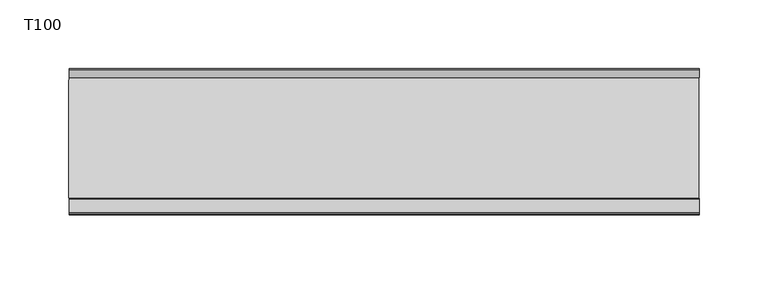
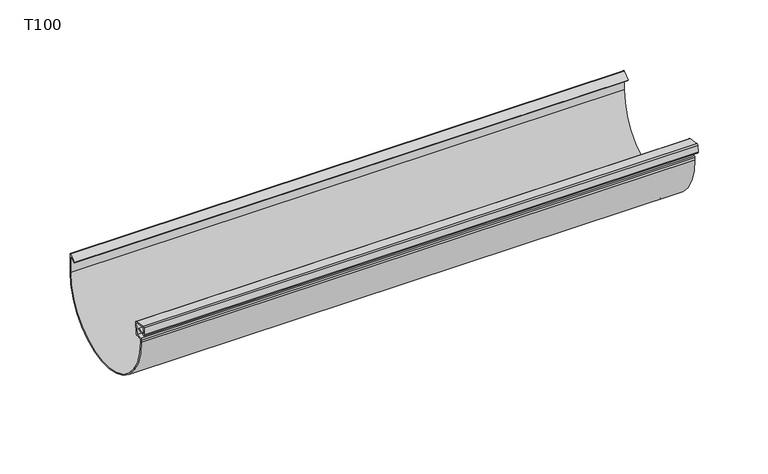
"""IFC4 building model written with IfcOpenShell, lengths in millimetres: proxy geometry, GROVIK_Gutter_Straight : T100."""

from ifc_helpers import new_model, si_unit, point, frame, frame_2d, origin, place, context, project, spatial, polyline, circle_curve, trimmed, segment, composite_curve, outline, extrude, source, transform, mapped, element, save


def t100_75c98a39(model_context):
    return source(origin(), model_context, "Body", "SweptSolid", [
        extrude(outline(composite_curve([segment(polyline([(95.6785725, -12.9222473), (100.8871557, -13.3779392)]), True, "CONTINUOUS"), segment(trimmed(circle_curve(frame_2d((100.8, -14.3741339)), 1.0), [point((100.8871557, -13.3779392))], [point((101.8, -14.3741339))], False, "CARTESIAN"), True, "CONTINUOUS"), segment(polyline([(101.8, -14.3741339), (101.8, -16.3578028)]), True, "CONTINUOUS"), segment(trimmed(circle_curve(frame_2d((50.9, -16.3578028)), 50.9), [point((101.8, -16.3578028))], [point((0.0, -16.3578028))], False, "CARTESIAN"), True, "CONTINUOUS"), segment(polyline([(0.0, -16.3578028), (0.0, -0.5)]), True, "CONTINUOUS"), segment(trimmed(circle_curve(frame_2d((0.5, -0.5)), 0.5), [point((0.0, -0.5))], [point((0.8213938, -0.1169778))], False, "CARTESIAN"), True, "CONTINUOUS"), segment(polyline([(0.8213938, -0.1169778), (6.2279844, -4.6536459), (5.6494755, -5.3430859), (0.9, -1.3578028), (0.9, -16.3578028)]), True, "CONTINUOUS"), segment(trimmed(circle_curve(frame_2d((50.9, -16.3578028)), 50.0), [point((0.9, -16.3578028))], [point((100.9, -16.3578028))], True, "CARTESIAN"), True, "CONTINUOUS"), segment(polyline([(100.9, -16.3578028), (100.9, -14.2825008), (95.683723, -13.8261357)]), True, "CONTINUOUS"), segment(trimmed(circle_curve(frame_2d((95.683723, -12.9170968)), 0.909039), [point((95.683723, -13.8261357))], [point((94.7746841, -12.9170968))], False, "CARTESIAN"), True, "CONTINUOUS"), segment(polyline([(94.7746841, -12.9170968), (93.9345391, -3.3141955)]), True, "CONTINUOUS"), segment(trimmed(circle_curve(frame_2d((94.9307338, -3.2270397)), 1.0), [point((93.9345391, -3.3141955))], [point((94.7570856, -2.2422319))], False, "CARTESIAN"), True, "CONTINUOUS"), segment(polyline([(94.7570856, -2.2422319), (104.6051631, -0.5057502)]), True, "CONTINUOUS"), segment(trimmed(circle_curve(frame_2d((104.6923189, -1.5019449)), 1.0), [point((104.6051631, -0.5057502))], [point((105.6885136, -1.4147891))], False, "CARTESIAN"), True, "CONTINUOUS"), segment(polyline([(105.6885136, -1.4147891), (106.1850202, -7.0898858)]), True, "CONTINUOUS"), segment(trimmed(circle_curve(frame_2d((105.1888255, -7.1770416)), 1.0), [point((106.1850202, -7.0898858))], [point((105.0151773, -8.1618493))], False, "CARTESIAN"), True, "CONTINUOUS"), segment(polyline([(105.0151773, -8.1618493), (98.1850202, -6.9575084), (98.3413035, -6.0711813), (105.2998033, -7.2981526), (104.7816977, -1.3761787), (94.8220658, -3.1323306), (95.6785725, -12.9222473)]), True, "CONTINUOUS")], self_intersect=False)), frame((457.6968716, 0.0, -0.4566969), z_axis=(-0.999999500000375, 0.0, 0.000999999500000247), x_axis=(0.0, -1.0, 0.0)), (0.0, 0.0, 1.0), 456.6971),
    ])


if __name__ == "__main__":
    model = new_model("IFC4")
    model_context = context("Model", 3, world=origin())
    ifc_project = project(units=[si_unit("LENGTHUNIT", "METRE", prefix="MILLI")], contexts=[model_context])
    site = spatial("IfcSite", under=ifc_project)
    building = spatial("IfcBuilding", under=site)
    placement = place(None, origin())
    t100_shape = t100_75c98a39(model_context)
    element("IfcBuildingElementProxy", 1, Name="GROVIK_Gutter_Straight : T100", ObjectType="GROVIK_Gutter_Straight : T100", at=placement, inside=building, context=model_context, shape_type="MappedRepresentation", body=[
        mapped(t100_shape, transform((0.0, 0.0, 0.0), x_axis=(1.0, 0.0, 0.0), y_axis=(0.0, 1.0, 0.0), z_axis=(0.0, 0.0, 1.0))),
    ])
    save(model, "model.ifc")
